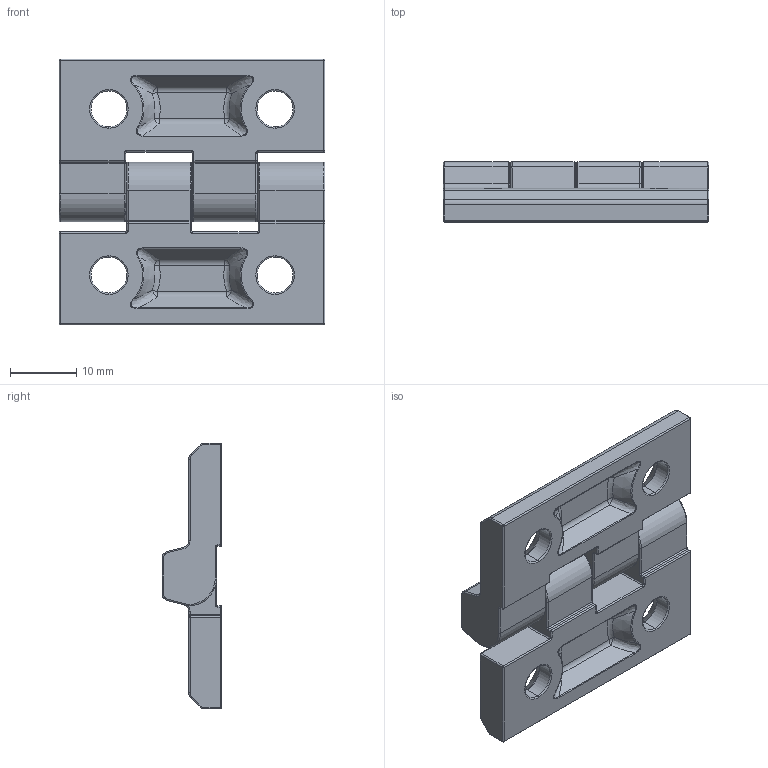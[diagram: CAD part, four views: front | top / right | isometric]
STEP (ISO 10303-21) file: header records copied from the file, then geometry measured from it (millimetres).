
FILE_DESCRIPTION (( 'STEP AP214' ), '1' );
FILE_NAME ('HGS-226-MP-3.STEP', '2019-11-12T02:57:34', ( '' ), ( '' ), 'SwSTEP 2.0', 'SolidWorks 2010', '' );
FILE_SCHEMA (( 'AUTOMOTIVE_DESIGN' ));
Length unit declared in the file: millimetre
Products named in the file (3): 鉸鏈片; HGS-226-MP-3; 插銷
Assembly tree (3 placements, depth 2):
  HGS-226-MP-3
    插銷
    鉸鏈片  x2
Bounding box: 40 x 9 x 40 mm (x, y, z)
Volume: 7054.2 mm3; surface area: 5579.7 mm2
Topology: 3 solids, 3 shells, 378 faces, 862 edges, 462 vertices
Faces by surface type: cylinder 148, torus 108, plane 50, sphere 40, bspline 20, cone 12
Entity records: 6406 total; most frequent: CARTESIAN_POINT 1992, DIRECTION 1030, ORIENTED_EDGE 840, AXIS2_PLACEMENT_3D 444, EDGE_CURVE 420, CIRCLE 256, VERTEX_POINT 232, EDGE_LOOP 198
